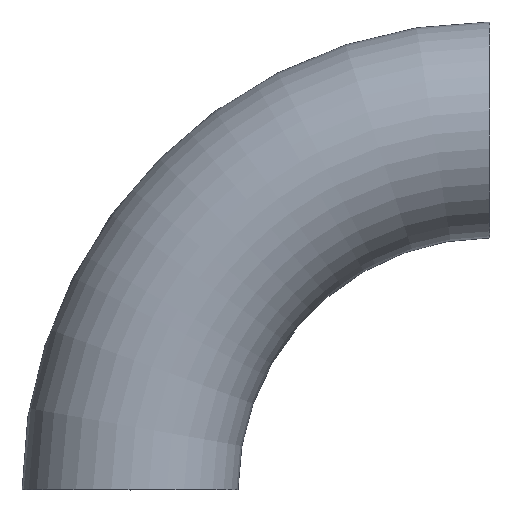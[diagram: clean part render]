
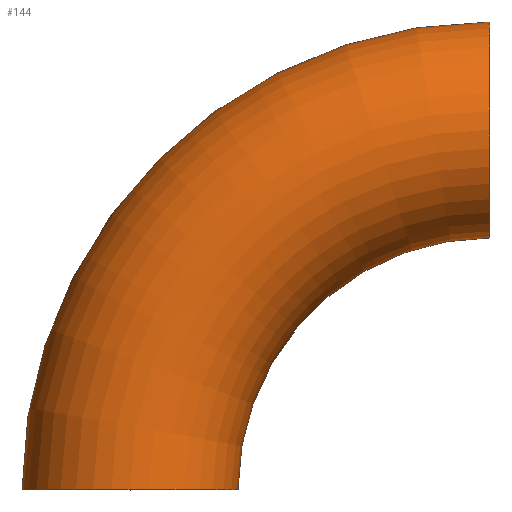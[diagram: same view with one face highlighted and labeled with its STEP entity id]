
A CAD part, top view. The second image highlights one B-rep face of the part: STEP entity #144.
In plain terms, the highlighted toroidal (fillet/blend) face has major radius 30 mm and minor radius 9 mm.
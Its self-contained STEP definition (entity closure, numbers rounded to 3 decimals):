
#4 = DIRECTION ( 'NONE',  ( 0., 1., 0. ) ) ;
#30 = DIRECTION ( 'NONE',  ( 1., 0., 0. ) ) ;
#31 = ORIENTED_EDGE ( 'NONE', *, *, #181, .F. ) ;
#32 = CARTESIAN_POINT ( 'NONE',  ( 9., 0., 0. ) ) ;
#35 = CIRCLE ( 'NONE', #253, 39. ) ;
#43 = EDGE_LOOP ( 'NONE', ( #31, #244, #214, #72 ) ) ;
#45 = CARTESIAN_POINT ( 'NONE',  ( 0., 0., 0. ) ) ;
#57 = EDGE_CURVE ( 'NONE', #158, #237, #222, .T. ) ;
#63 = FACE_OUTER_BOUND ( 'NONE', #43, .T. ) ;
#65 = DIRECTION ( 'NONE',  ( 0., 0., 1. ) ) ;
#67 = CARTESIAN_POINT ( 'NONE',  ( 30., 0., 0. ) ) ;
#68 = EDGE_CURVE ( 'NONE', #168, #237, #201, .T. ) ;
#69 = DIRECTION ( 'NONE',  ( 1., 0., 0. ) ) ;
#72 = ORIENTED_EDGE ( 'NONE', *, *, #57, .F. ) ;
#89 = DIRECTION ( 'NONE',  ( 0., 0., 1. ) ) ;
#101 = AXIS2_PLACEMENT_3D ( 'NONE', #165, #30, #204 ) ;
#109 = DIRECTION ( 'NONE',  ( 0., 0., 1. ) ) ;
#138 = AXIS2_PLACEMENT_3D ( 'NONE', #67, #109, #200 ) ;
#140 = CARTESIAN_POINT ( 'NONE',  ( 30., 39., 0. ) ) ;
#144 = ADVANCED_FACE ( 'NONE', ( #63 ), #160, .T. ) ;
#147 = CARTESIAN_POINT ( 'NONE',  ( 30., 21., 0. ) ) ;
#150 = CARTESIAN_POINT ( 'NONE',  ( -9., 0., 0. ) ) ;
#158 = VERTEX_POINT ( 'NONE', #147 ) ;
#160 = TOROIDAL_SURFACE ( 'NONE', #184, 30., 9. ) ;
#165 = CARTESIAN_POINT ( 'NONE',  ( 30., 30., 0. ) ) ;
#168 = VERTEX_POINT ( 'NONE', #150 ) ;
#177 = CARTESIAN_POINT ( 'NONE',  ( 30., 0., 0. ) ) ;
#181 = EDGE_CURVE ( 'NONE', #226, #158, #210, .T. ) ;
#184 = AXIS2_PLACEMENT_3D ( 'NONE', #225, #65, #241 ) ;
#190 = DIRECTION ( 'NONE',  ( 0., 0., 1. ) ) ;
#200 = DIRECTION ( 'NONE',  ( 1., 0., 0. ) ) ;
#201 = CIRCLE ( 'NONE', #211, 9. ) ;
#204 = DIRECTION ( 'NONE',  ( 0., 0., 1. ) ) ;
#210 = CIRCLE ( 'NONE', #101, 9. ) ;
#211 = AXIS2_PLACEMENT_3D ( 'NONE', #45, #4, #89 ) ;
#214 = ORIENTED_EDGE ( 'NONE', *, *, #68, .T. ) ;
#222 = CIRCLE ( 'NONE', #138, 21. ) ;
#225 = CARTESIAN_POINT ( 'NONE',  ( 30., 0., 0. ) ) ;
#226 = VERTEX_POINT ( 'NONE', #140 ) ;
#230 = EDGE_CURVE ( 'NONE', #226, #168, #35, .T. ) ;
#237 = VERTEX_POINT ( 'NONE', #32 ) ;
#241 = DIRECTION ( 'NONE',  ( 1., 0., 0. ) ) ;
#244 = ORIENTED_EDGE ( 'NONE', *, *, #230, .T. ) ;
#253 = AXIS2_PLACEMENT_3D ( 'NONE', #177, #190, #69 ) ;
